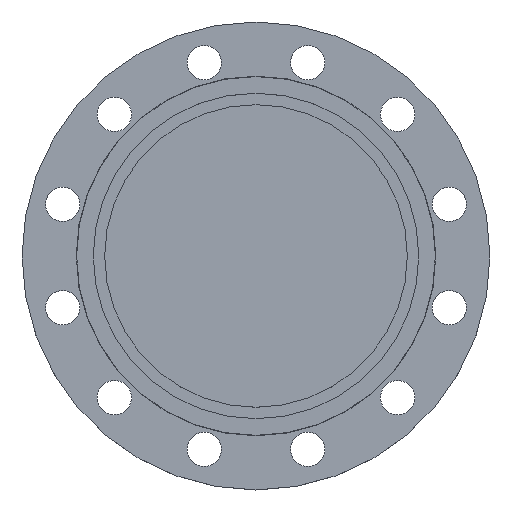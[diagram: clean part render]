
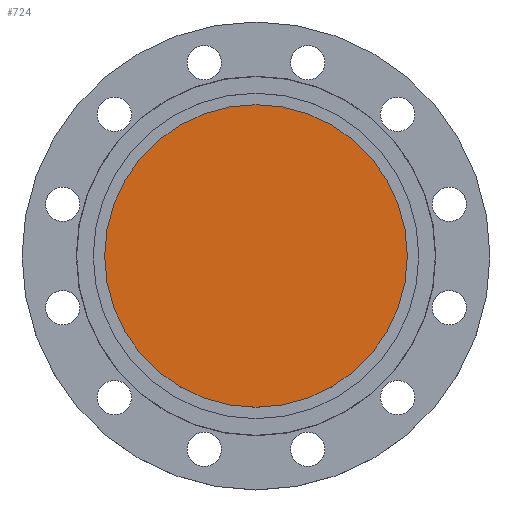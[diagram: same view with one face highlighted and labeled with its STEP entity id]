
A CAD part, top view. The second image highlights one B-rep face of the part: STEP entity #724.
In plain terms, the highlighted planar face has unit normal (0, 0, 1).
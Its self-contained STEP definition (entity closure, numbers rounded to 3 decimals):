
#27 = ORIENTED_EDGE ( 'NONE', *, *, #710, .F. ) ;
#36 = DIRECTION ( 'NONE',  ( 0., 0., -1. ) ) ;
#198 = AXIS2_PLACEMENT_3D ( 'NONE', #511, #509, #503 ) ;
#252 = ORIENTED_EDGE ( 'NONE', *, *, #659, .F. ) ;
#353 = AXIS2_PLACEMENT_3D ( 'NONE', #508, #506, #1212 ) ;
#475 = PLANE ( 'NONE',  #353 ) ;
#499 = FACE_OUTER_BOUND ( 'NONE', #856, .T. ) ;
#503 = DIRECTION ( 'NONE',  ( -1., 0., 0. ) ) ;
#506 = DIRECTION ( 'NONE',  ( 0., 0., 1. ) ) ;
#508 = CARTESIAN_POINT ( 'NONE',  ( 0., 0., 0. ) ) ;
#509 = DIRECTION ( 'NONE',  ( 0., 0., -1. ) ) ;
#511 = CARTESIAN_POINT ( 'NONE',  ( 0., 0., 0. ) ) ;
#544 = CARTESIAN_POINT ( 'NONE',  ( 145.5, 0., 0. ) ) ;
#568 = CIRCLE ( 'NONE', #198, 145.5 ) ;
#627 = AXIS2_PLACEMENT_3D ( 'NONE', #702, #36, #1276 ) ;
#659 = EDGE_CURVE ( 'NONE', #1200, #1297, #844, .T. ) ;
#702 = CARTESIAN_POINT ( 'NONE',  ( 0., 0., 0. ) ) ;
#710 = EDGE_CURVE ( 'NONE', #1297, #1200, #568, .T. ) ;
#724 = ADVANCED_FACE ( 'NONE', ( #499 ), #475, .T. ) ;
#844 = CIRCLE ( 'NONE', #627, 145.5 ) ;
#856 = EDGE_LOOP ( 'NONE', ( #27, #252 ) ) ;
#867 = CARTESIAN_POINT ( 'NONE',  ( -145.5, 0., 0. ) ) ;
#1200 = VERTEX_POINT ( 'NONE', #544 ) ;
#1212 = DIRECTION ( 'NONE',  ( 1., 0., 0. ) ) ;
#1276 = DIRECTION ( 'NONE',  ( -1., 0., 0. ) ) ;
#1297 = VERTEX_POINT ( 'NONE', #867 ) ;
